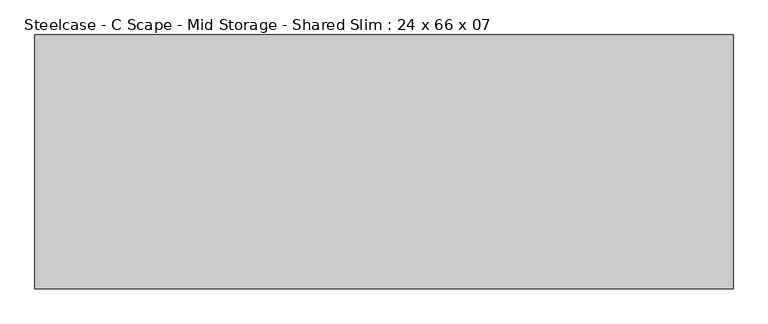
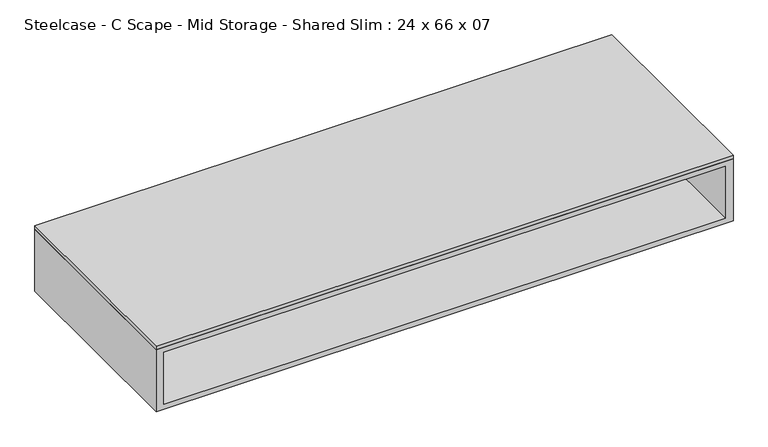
"""IFC4 building model written with IfcOpenShell, lengths in millimetres: furniture geometry, Steelcase - C Scape - Mid Storage - Shared Slim : 24 x 66 x 07."""

from ifc_helpers import new_model, si_unit, frame, origin, place, context, project, spatial, polyline, outline, extrude, source, transform, mapped, element, save


def steelcase_c_scape_mid_storage_shared_slim_24_x_66_x_07_a0231b1c(model_context):
    return source(origin(), model_context, "Body", "SweptSolid", [
        extrude(outline(polyline([(1676.4, 304.8), (1676.4, -304.8), (0.0, -304.8), (0.0, 304.8), (1676.4, 304.8)])), frame((0.0, 0.0, 1028.7), z_axis=(0.0, 0.0, 1.0), x_axis=(1.0, 0.0, 0.0)), (0.0, 0.0, 1.0), 10.16),
        extrude(outline(polyline([(1654.302, 3.1751841), (1654.302, -3.1744283), (21.9711633, -3.1744283), (21.9711633, 3.1751841), (1654.302, 3.1751841)])), frame((0.0, 0.0, 853.4399855), z_axis=(0.0, 0.0, 1.0), x_axis=(1.0, 0.0, 0.0)), (0.0, 0.0, 1.0), 160.0200145),
        extrude(outline(polyline([(1028.7, 1676.4), (1028.7, 0.0), (838.2, 0.0), (838.2, 1676.4), (1028.7, 1676.4)]), holes=[polyline([(1013.46, 1654.302), (853.4399855, 1654.302), (853.4399855, 21.9711633), (1013.46, 21.9711633), (1013.46, 1654.302)])]), frame((0.0, -304.8, 0.0), z_axis=(0.0, 1.0, 0.0), x_axis=(0.0, 0.0, 1.0)), (0.0, 0.0, 1.0), 609.6),
    ])


if __name__ == "__main__":
    model = new_model("IFC4")
    model_context = context("Model", 3, world=origin())
    ifc_project = project(units=[si_unit("LENGTHUNIT", "METRE", prefix="MILLI")], contexts=[model_context])
    site = spatial("IfcSite", under=ifc_project)
    building = spatial("IfcBuilding", under=site)
    placement = place(None, origin())
    steelcase_c_scape_mid_storage_shared_slim_24_x_66_x_07_shape = steelcase_c_scape_mid_storage_shared_slim_24_x_66_x_07_a0231b1c(model_context)
    element("IfcFurniture", 1, ObjectType="Steelcase - C Scape - Mid Storage - Shared Slim : 24 x 66 x 07", at=placement, inside=building, context=model_context, shape_type="MappedRepresentation", body=[
        mapped(steelcase_c_scape_mid_storage_shared_slim_24_x_66_x_07_shape, transform((0.0, 0.0, 0.0), x_axis=(1.0, 0.0, 0.0), y_axis=(0.0, 1.0, 0.0), z_axis=(0.0, 0.0, 1.0))),
    ])
    save(model, "model.ifc")
